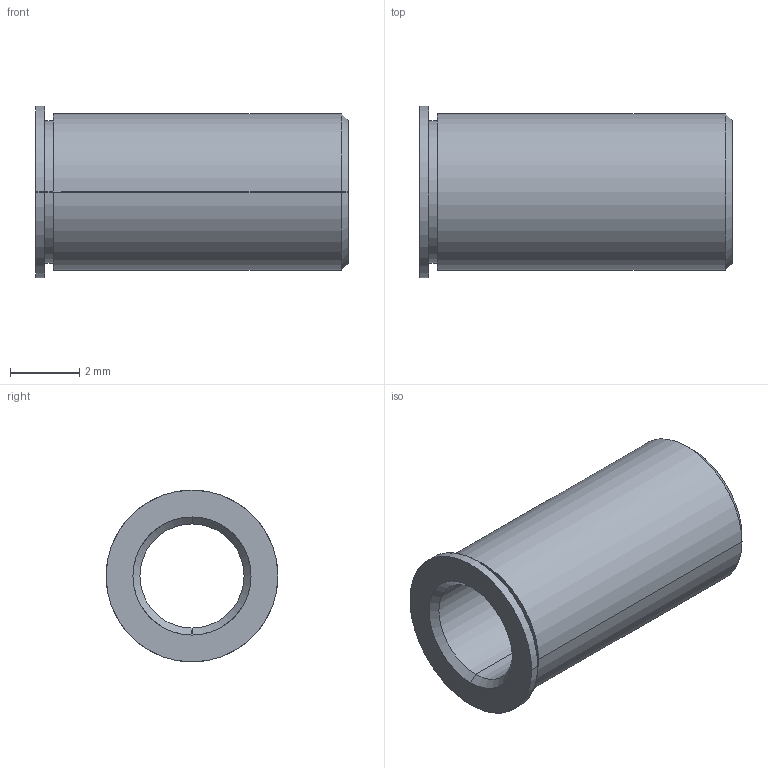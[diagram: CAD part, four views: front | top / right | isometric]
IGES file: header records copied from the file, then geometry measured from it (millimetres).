
Start section: SolidWorks IGES file using analytic representation for surfaces
Global section: file name: C:\Users\workpc\Desktop\KMA Solidworks\Metric Bushings\Metric Bushings IGES\TB3-20-09-P.IGS; native system: SolidWorks 2013; preprocessor: SolidWorks 2013; author: workpc; date: 130827.095354; units: millimetre
Bounding box: 9 x 4.95 x 4.95 mm (x, y, z)
Surface area: 238 mm2 (no closed solid volume)
Topology: 0 solids, 0 shells, 18 faces, 312 edges, 312 vertices
Faces by surface type: revolution 14, bspline 4
